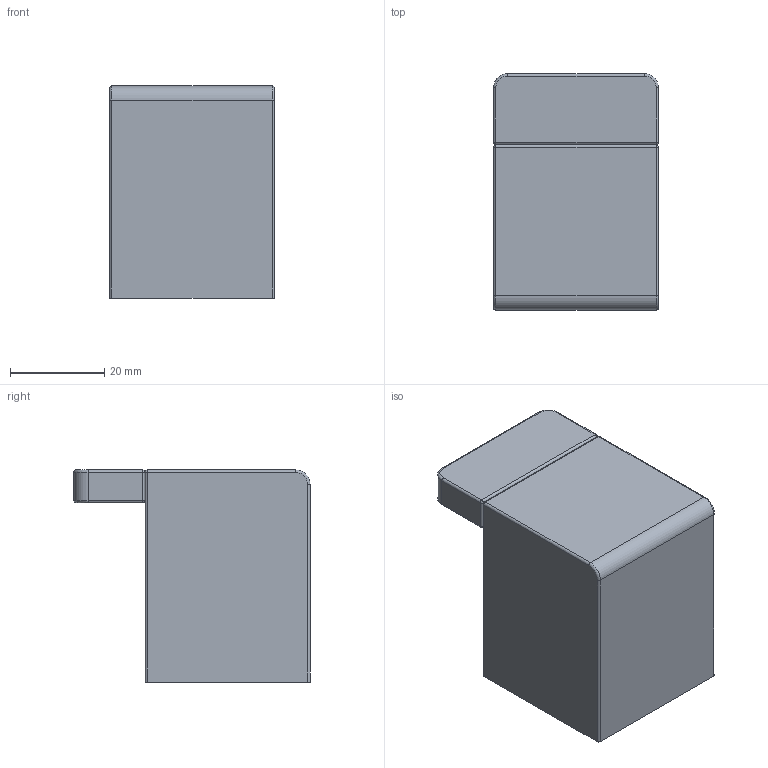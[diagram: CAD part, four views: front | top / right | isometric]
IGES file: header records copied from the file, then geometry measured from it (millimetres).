
Start section:  PTC IGES file: ya900.igs
Global section: file name: ya900.igs; native system: Pro/ENGINEER by Parametric Technology Corporation; preprocessor: 2009140; author: damjan; organization: Unknown; date: 20100804.105443; units: millimetre
Bounding box: 35 x 50.1 x 45 mm (x, y, z)
Volume: 58679.1 mm3; surface area: 10319.3 mm2
Topology: 2 solids, 2 shells, 44 faces, 96 edges, 50 vertices
Faces by surface type: revolution 32, bspline 12
